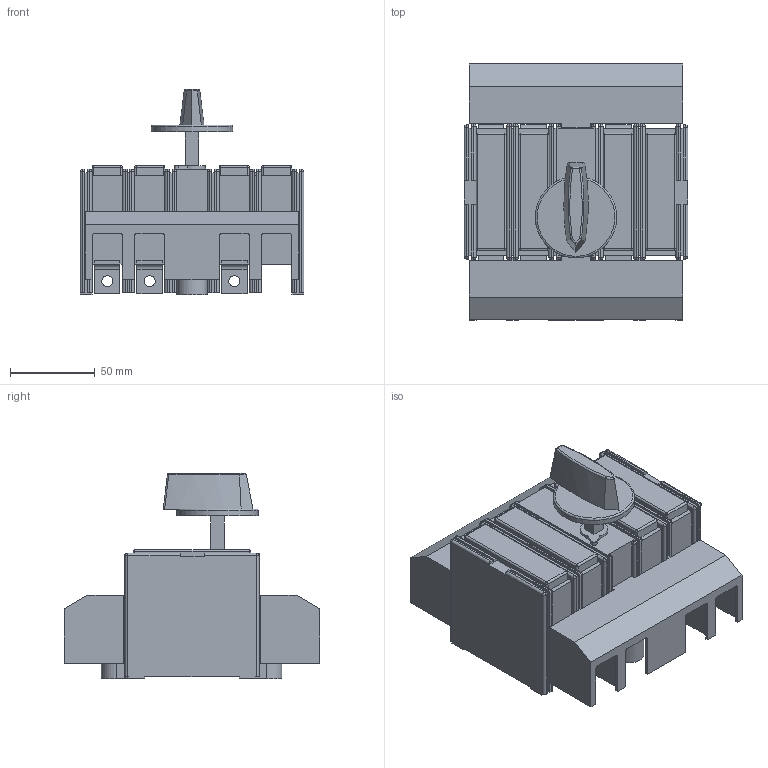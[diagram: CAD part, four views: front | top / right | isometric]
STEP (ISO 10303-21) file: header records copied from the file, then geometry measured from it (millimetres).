
FILE_DESCRIPTION(/* description */ (''),/* implementation_level */ '2;1');
FILE_NAME(/* name */ 'RA100 P3 A-R z oslona zaciskow.stp',/* time_stamp */ '2021-08-17T12:14:36+02:00',/* author */ (''),/* organization */ (''),/* preprocessor_version */ 'ST-DEVELOPER v18.1',/* originating_system */ 'SIEMENS PLM Software NX 1965',/* authorisation */ '');
FILE_SCHEMA (('AUTOMOTIVE_DESIGN { 1 0 10303 214 3 1 1 1 }'));
Length unit declared in the file: millimetre
Products named in the file (1): RA100 P3 A-R z oslona zaciskow_stp
Bounding box: 132 x 151.03 x 121 mm (x, y, z)
Volume: 712872.2 mm3; surface area: 133539.7 mm2
Topology: 1 solids, 1 shells, 499 faces, 1354 edges, 826 vertices
Faces by surface type: plane 309, cylinder 141, sphere 41, bspline 7, torus 1
Full cylindrical faces by diameter (mm): 5.8 x2, 6.5 x6, 10 x2, 11.5 x2, 48 x1
Entity records: 15201 total; most frequent: CARTESIAN_POINT 2832, ORIENTED_EDGE 2580, DIRECTION 2535, EDGE_CURVE 1290, LINE 985, VECTOR 985, VERTEX_POINT 818, AXIS2_PLACEMENT_3D 775
